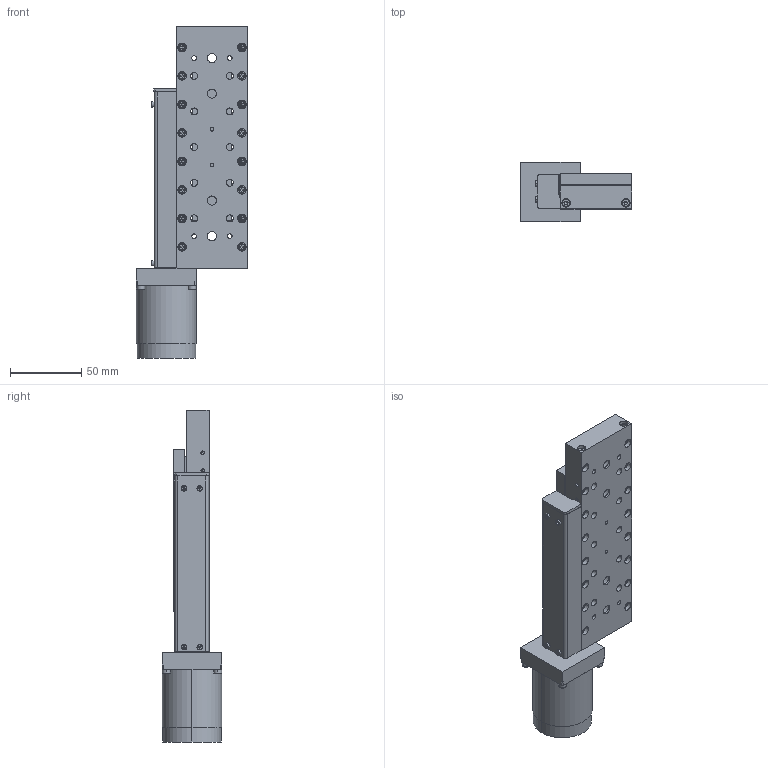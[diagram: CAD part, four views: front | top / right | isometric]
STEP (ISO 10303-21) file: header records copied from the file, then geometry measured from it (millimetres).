
FILE_DESCRIPTION (( 'STEP AP203' ), '1' );
FILE_NAME ('8MT175V-50-VSS42.STEP', '2012-01-19T06:54:28', ( 'Darius' ), ( '' ), 'SwSTEP 2.0', 'SolidWorks 2003240', '' );
FILE_SCHEMA (( 'CONFIG_CONTROL_DESIGN' ));
Length unit declared in the file: millimetre
Products named in the file (1): 8MT175V-50-VSS42
Bounding box: 78 x 42 x 233 mm (x, y, z)
Volume: 291463.1 mm3; surface area: 76613.6 mm2
Topology: 1 solids, 47 shells, 1406 faces, 3645 edges, 2320 vertices
Faces by surface type: plane 622, cylinder 432, bspline 198, cone 154
Entity records: 47108 total; most frequent: CARTESIAN_POINT 13999, ORIENTED_EDGE 7098, DIRECTION 6375, EDGE_CURVE 3549, VERTEX_POINT 2320, AXIS2_PLACEMENT_3D 2316, VECTOR 1743, LINE 1743
